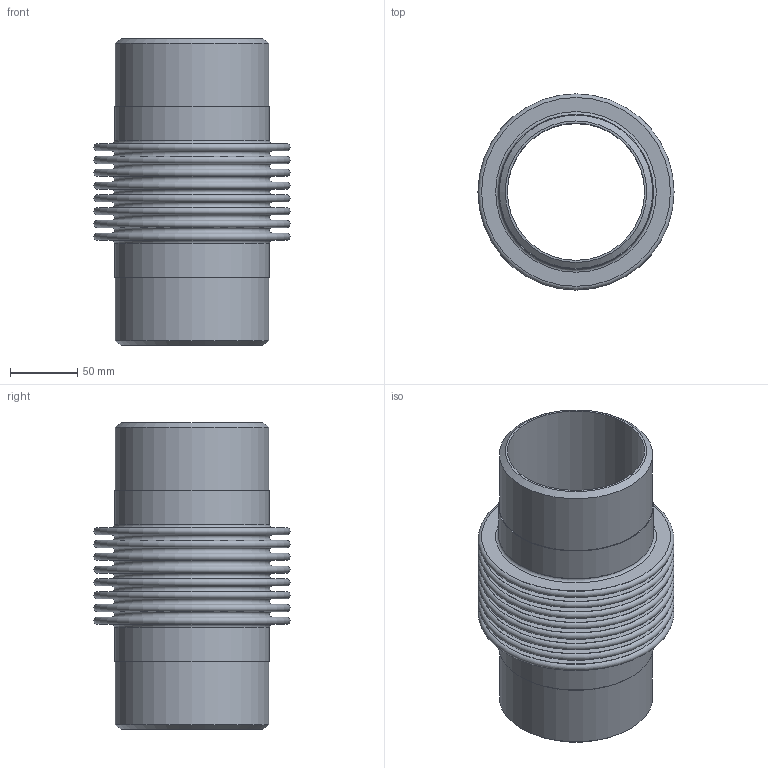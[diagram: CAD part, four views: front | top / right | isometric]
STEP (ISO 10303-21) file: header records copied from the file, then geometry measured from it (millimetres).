
FILE_DESCRIPTION(/* description */ (''),/* implementation_level */ '2;1');
FILE_NAME(/* name */ 'PIPE- 4 - 85 PSIG.stp',/* time_stamp */ '2026-07-23T09:25:33-05:00',/* author */ ('jorgef'),/* organization */ (''),/* preprocessor_version */ 'ST-DEVELOPER v20.1',/* originating_system */ 'Autodesk Inventor 2026',/* authorisation */ '');
FILE_SCHEMA (('AUTOMOTIVE_DESIGN { 1 0 10303 214 3 1 1 }'));
Length unit declared in the file: inch
Products named in the file (1): PIPE- 4 - 85 PSIG ASSEMBLY PART
Bounding box: 146.05 x 146.05 x 228.6 mm (x, y, z)
Volume: 389720.2 mm3; surface area: 346212.1 mm2
Topology: 1 solids, 1 shells, 80 faces, 126 edges, 84 vertices
Faces by surface type: plane 38, torus 34, cylinder 6, cone 2
Full cylindrical faces by diameter (mm): 102.26 x2, 114.3 x2, 115.519 x2
Entity records: 2035 total; most frequent: DIRECTION 406, CARTESIAN_POINT 291, ORIENTED_EDGE 252, AXIS2_PLACEMENT_3D 199, EDGE_CURVE 126, EDGE_LOOP 118, CIRCLE 118, VERTEX_POINT 84
